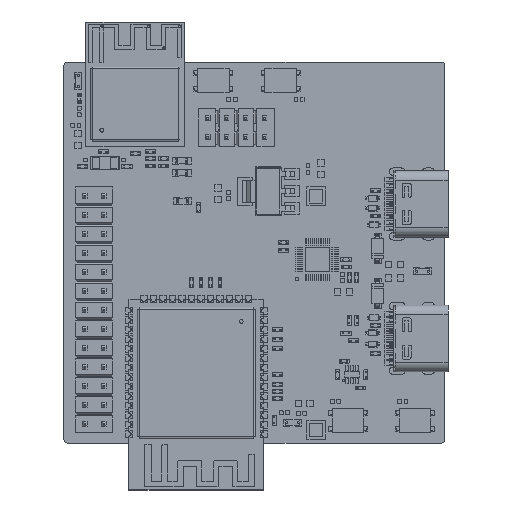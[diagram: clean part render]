
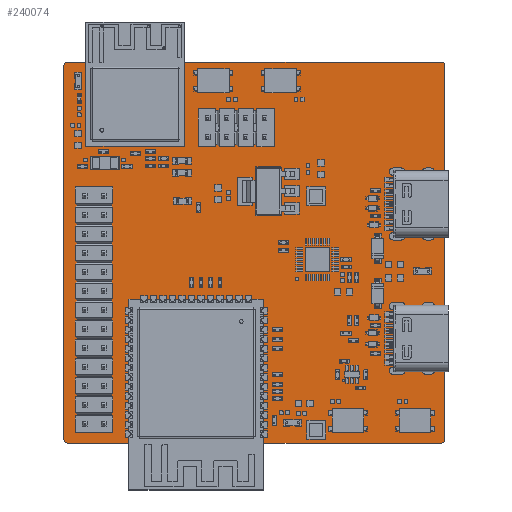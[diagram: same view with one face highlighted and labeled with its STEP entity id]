
A CAD part, top view. The second image highlights one B-rep face of the part: STEP entity #240074.
In plain terms, the highlighted planar face has unit normal (0, 0, 1).
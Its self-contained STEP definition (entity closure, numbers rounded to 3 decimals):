
#12045 = LINE ( 'NONE', #266208, #185652 ) ;
#12535 = EDGE_CURVE ( 'NONE', #58309, #299609, #334346, .T. ) ;
#13013 = ORIENTED_EDGE ( 'NONE', *, *, #12535, .T. ) ;
#18001 = AXIS2_PLACEMENT_3D ( 'NONE', #412468, #72436, #318673 ) ;
#18482 = DIRECTION ( 'NONE',  ( -1., 0., 0. ) ) ;
#22140 = EDGE_CURVE ( 'NONE', #303136, #285466, #12045, .T. ) ;
#25130 = EDGE_CURVE ( 'NONE', #159574, #309378, #76656, .T. ) ;
#36331 = CARTESIAN_POINT ( 'NONE',  ( 50.5, 50.5, 0.288 ) ) ;
#44691 = DIRECTION ( 'NONE',  ( 1., 0., 0. ) ) ;
#48763 = DIRECTION ( 'NONE',  ( 0., -1., 0. ) ) ;
#58309 = VERTEX_POINT ( 'NONE', #296704 ) ;
#59457 = EDGE_CURVE ( 'NONE', #322734, #159574, #155769, .T. ) ;
#61297 = CARTESIAN_POINT ( 'NONE',  ( 25.5, 25.5, 0.288 ) ) ;
#61413 = DIRECTION ( 'NONE',  ( 1., 0., 0. ) ) ;
#65492 = DIRECTION ( 'NONE',  ( 0., 0., 1. ) ) ;
#71032 = CIRCLE ( 'NONE', #18001, 0.5 ) ;
#72436 = DIRECTION ( 'NONE',  ( 0., 0., 1. ) ) ;
#76656 = LINE ( 'NONE', #203932, #174264 ) ;
#78674 = ORIENTED_EDGE ( 'NONE', *, *, #59457, .T. ) ;
#79660 = ORIENTED_EDGE ( 'NONE', *, *, #276255, .T. ) ;
#79933 = CARTESIAN_POINT ( 'NONE',  ( 0., 25.5, 0.288 ) ) ;
#116616 = ORIENTED_EDGE ( 'NONE', *, *, #252799, .T. ) ;
#118010 = DIRECTION ( 'NONE',  ( 0., 1., 0. ) ) ;
#121732 = EDGE_CURVE ( 'NONE', #309378, #58309, #71032, .T. ) ;
#143219 = CARTESIAN_POINT ( 'NONE',  ( 50.5, 51., 0.288 ) ) ;
#147519 = DIRECTION ( 'NONE',  ( 1., 0., 0. ) ) ;
#153467 = DIRECTION ( 'NONE',  ( 1., 0., 0. ) ) ;
#155769 = CIRCLE ( 'NONE', #335466, 0.5 ) ;
#156443 = EDGE_LOOP ( 'NONE', ( #78674, #163660, #188693, #13013, #79660, #374902, #240963, #116616 ) ) ;
#159574 = VERTEX_POINT ( 'NONE', #143219 ) ;
#163660 = ORIENTED_EDGE ( 'NONE', *, *, #25130, .T. ) ;
#166551 = CARTESIAN_POINT ( 'NONE',  ( 0.5, 0., 0.288 ) ) ;
#174264 = VECTOR ( 'NONE', #18482, 1000. ) ;
#175011 = VECTOR ( 'NONE', #118010, 1000. ) ;
#178829 = CARTESIAN_POINT ( 'NONE',  ( 0.5, 0.5, 0.288 ) ) ;
#185652 = VECTOR ( 'NONE', #153467, 1000. ) ;
#188475 = DIRECTION ( 'NONE',  ( 0., 0., 1. ) ) ;
#188693 = ORIENTED_EDGE ( 'NONE', *, *, #121732, .T. ) ;
#203084 = VECTOR ( 'NONE', #48763, 1000. ) ;
#203932 = CARTESIAN_POINT ( 'NONE',  ( 25.5, 51., 0.288 ) ) ;
#209699 = CARTESIAN_POINT ( 'NONE',  ( 0.5, 51., 0.288 ) ) ;
#217076 = CARTESIAN_POINT ( 'NONE',  ( 51., 0.5, 0.288 ) ) ;
#225885 = DIRECTION ( 'NONE',  ( 1., 0., 0. ) ) ;
#231107 = CARTESIAN_POINT ( 'NONE',  ( 51., 50.5, 0.288 ) ) ;
#240074 = ADVANCED_FACE ( 'NONE', ( #307491 ), #242809, .T. ) ;
#240536 = DIRECTION ( 'NONE',  ( 0., 0., 1. ) ) ;
#240963 = ORIENTED_EDGE ( 'NONE', *, *, #341189, .T. ) ;
#242564 = CARTESIAN_POINT ( 'NONE',  ( 50.5, 0.5, 0.288 ) ) ;
#242809 = PLANE ( 'NONE',  #300558 ) ;
#252799 = EDGE_CURVE ( 'NONE', #342730, #322734, #276494, .T. ) ;
#266208 = CARTESIAN_POINT ( 'NONE',  ( 25.5, 0., 0.288 ) ) ;
#273836 = AXIS2_PLACEMENT_3D ( 'NONE', #242564, #240536, #44691 ) ;
#274155 = CARTESIAN_POINT ( 'NONE',  ( 0., 0.5, 0.288 ) ) ;
#276255 = EDGE_CURVE ( 'NONE', #299609, #303136, #403451, .T. ) ;
#276494 = LINE ( 'NONE', #403605, #175011 ) ;
#285466 = VERTEX_POINT ( 'NONE', #378262 ) ;
#296704 = CARTESIAN_POINT ( 'NONE',  ( 0., 50.5, 0.288 ) ) ;
#299609 = VERTEX_POINT ( 'NONE', #274155 ) ;
#300558 = AXIS2_PLACEMENT_3D ( 'NONE', #61297, #188475, #225885 ) ;
#303136 = VERTEX_POINT ( 'NONE', #166551 ) ;
#307491 = FACE_OUTER_BOUND ( 'NONE', #156443, .T. ) ;
#309378 = VERTEX_POINT ( 'NONE', #209699 ) ;
#318673 = DIRECTION ( 'NONE',  ( 1., 0., 0. ) ) ;
#322734 = VERTEX_POINT ( 'NONE', #231107 ) ;
#334346 = LINE ( 'NONE', #79933, #203084 ) ;
#335466 = AXIS2_PLACEMENT_3D ( 'NONE', #36331, #65492, #61413 ) ;
#340101 = CIRCLE ( 'NONE', #273836, 0.5 ) ;
#341189 = EDGE_CURVE ( 'NONE', #285466, #342730, #340101, .T. ) ;
#342730 = VERTEX_POINT ( 'NONE', #217076 ) ;
#374902 = ORIENTED_EDGE ( 'NONE', *, *, #22140, .T. ) ;
#376674 = AXIS2_PLACEMENT_3D ( 'NONE', #178829, #403866, #147519 ) ;
#378262 = CARTESIAN_POINT ( 'NONE',  ( 50.5, 0., 0.288 ) ) ;
#403451 = CIRCLE ( 'NONE', #376674, 0.5 ) ;
#403605 = CARTESIAN_POINT ( 'NONE',  ( 51., 25.5, 0.288 ) ) ;
#403866 = DIRECTION ( 'NONE',  ( 0., 0., 1. ) ) ;
#412468 = CARTESIAN_POINT ( 'NONE',  ( 0.5, 50.5, 0.288 ) ) ;
